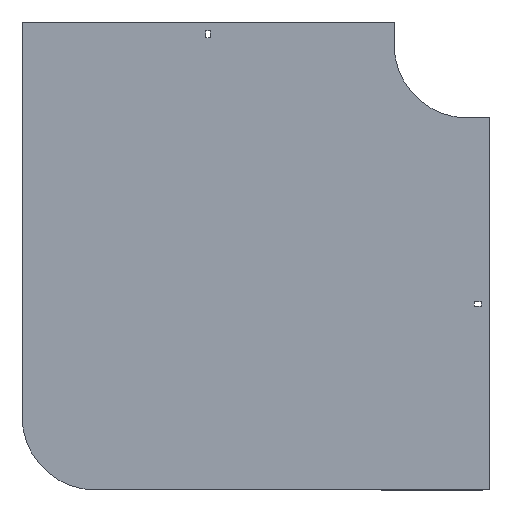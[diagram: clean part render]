
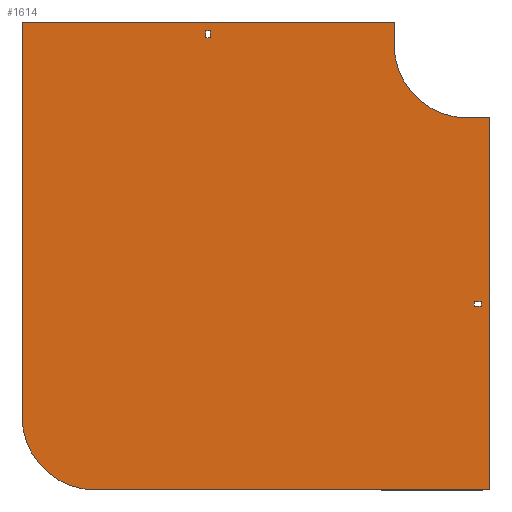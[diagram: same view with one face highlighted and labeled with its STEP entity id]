
A CAD part, front view. The second image highlights one B-rep face of the part: STEP entity #1614.
In plain terms, the highlighted planar face has unit normal (0, -1, 0).
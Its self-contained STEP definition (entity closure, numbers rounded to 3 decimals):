
#3 = ORIENTED_EDGE ( 'NONE', *, *, #15, .F. ) ;
#4 = CARTESIAN_POINT ( 'NONE',  ( 9., 0., -348.75 ) ) ;
#15 = EDGE_CURVE ( 'NONE', #1476, #1208, #1719, .T. ) ;
#24 = LINE ( 'NONE', #303, #1764 ) ;
#27 = CARTESIAN_POINT ( 'NONE',  ( 0., 0., -100. ) ) ;
#67 = VECTOR ( 'NONE', #1816, 1000. ) ;
#76 = VECTOR ( 'NONE', #1525, 1000. ) ;
#82 = CARTESIAN_POINT ( 'NONE',  ( -355.25, 0., 9. ) ) ;
#83 = ORIENTED_EDGE ( 'NONE', *, *, #1489, .F. ) ;
#113 = EDGE_CURVE ( 'NONE', #1019, #391, #1571, .T. ) ;
#116 = CARTESIAN_POINT ( 'NONE',  ( -100., 0., 0. ) ) ;
#124 = CARTESIAN_POINT ( 'NONE',  ( 0., 0., -100. ) ) ;
#133 = EDGE_CURVE ( 'NONE', #462, #802, #1168, .T. ) ;
#170 = EDGE_CURVE ( 'NONE', #905, #1630, #24, .T. ) ;
#198 = ORIENTED_EDGE ( 'NONE', *, *, #226, .F. ) ;
#220 = CARTESIAN_POINT ( 'NONE',  ( 9., 0., -355.25 ) ) ;
#222 = VECTOR ( 'NONE', #814, 1000. ) ;
#226 = EDGE_CURVE ( 'NONE', #391, #879, #746, .T. ) ;
#252 = EDGE_CURVE ( 'NONE', #949, #979, #503, .T. ) ;
#303 = CARTESIAN_POINT ( 'NONE',  ( 30., 0., -100. ) ) ;
#348 = ORIENTED_EDGE ( 'NONE', *, *, #252, .F. ) ;
#350 = CARTESIAN_POINT ( 'NONE',  ( -348.75, 0., 9. ) ) ;
#389 = VERTEX_POINT ( 'NONE', #1930 ) ;
#391 = VERTEX_POINT ( 'NONE', #1642 ) ;
#397 = CARTESIAN_POINT ( 'NONE',  ( 9., 0., -348.75 ) ) ;
#402 = ORIENTED_EDGE ( 'NONE', *, *, #1458, .T. ) ;
#419 = DIRECTION ( 'NONE',  ( 0., -1., 0. ) ) ;
#439 = FACE_BOUND ( 'NONE', #486, .T. ) ;
#462 = VERTEX_POINT ( 'NONE', #1326 ) ;
#486 = EDGE_LOOP ( 'NONE', ( #83, #3, #804, #1386 ) ) ;
#488 = DIRECTION ( 'NONE',  ( 0., 0., -1. ) ) ;
#492 = CARTESIAN_POINT ( 'NONE',  ( 30., 0., -604. ) ) ;
#498 = CARTESIAN_POINT ( 'NONE',  ( 0., 0., 0. ) ) ;
#503 = LINE ( 'NONE', #1259, #76 ) ;
#532 = AXIS2_PLACEMENT_3D ( 'NONE', #498, #1116, #1096 ) ;
#588 = FACE_BOUND ( 'NONE', #1364, .T. ) ;
#593 = CARTESIAN_POINT ( 'NONE',  ( 18., 0., -355.25 ) ) ;
#604 = VECTOR ( 'NONE', #826, 1000. ) ;
#626 = DIRECTION ( 'NONE',  ( 0., 0., -1. ) ) ;
#632 = EDGE_CURVE ( 'NONE', #802, #1476, #1436, .T. ) ;
#655 = CARTESIAN_POINT ( 'NONE',  ( -355.25, 0., 18. ) ) ;
#679 = EDGE_CURVE ( 'NONE', #1235, #1412, #1257, .T. ) ;
#717 = ORIENTED_EDGE ( 'NONE', *, *, #913, .T. ) ;
#722 = VECTOR ( 'NONE', #1604, 1000. ) ;
#729 = CIRCLE ( 'NONE', #1565, 100. ) ;
#746 = LINE ( 'NONE', #1336, #1016 ) ;
#766 = VERTEX_POINT ( 'NONE', #27 ) ;
#802 = VERTEX_POINT ( 'NONE', #4 ) ;
#804 = ORIENTED_EDGE ( 'NONE', *, *, #632, .F. ) ;
#806 = LINE ( 'NONE', #1757, #722 ) ;
#814 = DIRECTION ( 'NONE',  ( 0., 0., 1. ) ) ;
#817 = EDGE_CURVE ( 'NONE', #979, #766, #729, .T. ) ;
#820 = CARTESIAN_POINT ( 'NONE',  ( -604., 0., 30. ) ) ;
#826 = DIRECTION ( 'NONE',  ( 0., 0., -1. ) ) ;
#828 = AXIS2_PLACEMENT_3D ( 'NONE', #858, #1008, #1451 ) ;
#841 = DIRECTION ( 'NONE',  ( 1., 0., 0. ) ) ;
#858 = CARTESIAN_POINT ( 'NONE',  ( -504., 0., -504. ) ) ;
#879 = VERTEX_POINT ( 'NONE', #820 ) ;
#905 = VERTEX_POINT ( 'NONE', #1560 ) ;
#913 = EDGE_CURVE ( 'NONE', #389, #1355, #968, .T. ) ;
#931 = PLANE ( 'NONE',  #532 ) ;
#949 = VERTEX_POINT ( 'NONE', #1518 ) ;
#957 = DIRECTION ( 'NONE',  ( 1., 0., 0. ) ) ;
#968 = LINE ( 'NONE', #350, #1761 ) ;
#978 = VECTOR ( 'NONE', #841, 1000. ) ;
#979 = VERTEX_POINT ( 'NONE', #116 ) ;
#984 = CARTESIAN_POINT ( 'NONE',  ( -355.25, 0., 9. ) ) ;
#990 = CARTESIAN_POINT ( 'NONE',  ( -504., 0., -604. ) ) ;
#996 = CARTESIAN_POINT ( 'NONE',  ( 18., 0., -355.25 ) ) ;
#1006 = ORIENTED_EDGE ( 'NONE', *, *, #113, .F. ) ;
#1008 = DIRECTION ( 'NONE',  ( 0., 1., 0. ) ) ;
#1014 = LINE ( 'NONE', #996, #1338 ) ;
#1016 = VECTOR ( 'NONE', #1799, 1000. ) ;
#1019 = VERTEX_POINT ( 'NONE', #990 ) ;
#1032 = EDGE_CURVE ( 'NONE', #766, #905, #1279, .T. ) ;
#1036 = ORIENTED_EDGE ( 'NONE', *, *, #817, .F. ) ;
#1085 = CARTESIAN_POINT ( 'NONE',  ( 30., 0., -604. ) ) ;
#1096 = DIRECTION ( 'NONE',  ( 0., 0., -1. ) ) ;
#1116 = DIRECTION ( 'NONE',  ( 0., -1., 0. ) ) ;
#1132 = CARTESIAN_POINT ( 'NONE',  ( 9., 0., -355.25 ) ) ;
#1140 = ORIENTED_EDGE ( 'NONE', *, *, #1566, .F. ) ;
#1168 = LINE ( 'NONE', #397, #1284 ) ;
#1179 = FACE_OUTER_BOUND ( 'NONE', #1243, .T. ) ;
#1208 = VERTEX_POINT ( 'NONE', #593 ) ;
#1221 = CARTESIAN_POINT ( 'NONE',  ( -348.75, 0., 9. ) ) ;
#1235 = VERTEX_POINT ( 'NONE', #1346 ) ;
#1243 = EDGE_LOOP ( 'NONE', ( #1140, #198, #1006, #1817, #1884, #1487, #1036, #348 ) ) ;
#1257 = LINE ( 'NONE', #984, #222 ) ;
#1259 = CARTESIAN_POINT ( 'NONE',  ( -100., 0., 30. ) ) ;
#1273 = ORIENTED_EDGE ( 'NONE', *, *, #1625, .T. ) ;
#1279 = LINE ( 'NONE', #124, #978 ) ;
#1284 = VECTOR ( 'NONE', #1771, 1000. ) ;
#1305 = DIRECTION ( 'NONE',  ( 0., 0., -1. ) ) ;
#1317 = VECTOR ( 'NONE', #957, 1000. ) ;
#1321 = ORIENTED_EDGE ( 'NONE', *, *, #679, .T. ) ;
#1326 = CARTESIAN_POINT ( 'NONE',  ( 18., 0., -348.75 ) ) ;
#1336 = CARTESIAN_POINT ( 'NONE',  ( -604., 0., -504. ) ) ;
#1338 = VECTOR ( 'NONE', #1456, 1000. ) ;
#1346 = CARTESIAN_POINT ( 'NONE',  ( -355.25, 0., 9. ) ) ;
#1355 = VERTEX_POINT ( 'NONE', #1221 ) ;
#1364 = EDGE_LOOP ( 'NONE', ( #1321, #402, #717, #1273 ) ) ;
#1386 = ORIENTED_EDGE ( 'NONE', *, *, #133, .F. ) ;
#1412 = VERTEX_POINT ( 'NONE', #655 ) ;
#1436 = LINE ( 'NONE', #220, #604 ) ;
#1437 = VECTOR ( 'NONE', #1535, 1000. ) ;
#1448 = EDGE_CURVE ( 'NONE', #1630, #1019, #1695, .T. ) ;
#1451 = DIRECTION ( 'NONE',  ( 0., 0., 1. ) ) ;
#1456 = DIRECTION ( 'NONE',  ( 0., 0., 1. ) ) ;
#1458 = EDGE_CURVE ( 'NONE', #1412, #389, #806, .T. ) ;
#1476 = VERTEX_POINT ( 'NONE', #1738 ) ;
#1487 = ORIENTED_EDGE ( 'NONE', *, *, #1032, .F. ) ;
#1488 = CARTESIAN_POINT ( 'NONE',  ( -604., 0., 30. ) ) ;
#1489 = EDGE_CURVE ( 'NONE', #1208, #462, #1014, .T. ) ;
#1518 = CARTESIAN_POINT ( 'NONE',  ( -100., 0., 30. ) ) ;
#1525 = DIRECTION ( 'NONE',  ( 0., 0., -1. ) ) ;
#1535 = DIRECTION ( 'NONE',  ( -1., 0., 0. ) ) ;
#1560 = CARTESIAN_POINT ( 'NONE',  ( 30., 0., -100. ) ) ;
#1565 = AXIS2_PLACEMENT_3D ( 'NONE', #1611, #419, #1305 ) ;
#1566 = EDGE_CURVE ( 'NONE', #879, #949, #1631, .T. ) ;
#1571 = CIRCLE ( 'NONE', #828, 100. ) ;
#1604 = DIRECTION ( 'NONE',  ( 1., 0., 0. ) ) ;
#1611 = CARTESIAN_POINT ( 'NONE',  ( 0., 0., 0. ) ) ;
#1614 = ADVANCED_FACE ( 'NONE', ( #588, #1179, #439 ), #931, .T. ) ;
#1625 = EDGE_CURVE ( 'NONE', #1355, #1235, #1877, .T. ) ;
#1630 = VERTEX_POINT ( 'NONE', #1085 ) ;
#1631 = LINE ( 'NONE', #1488, #67 ) ;
#1642 = CARTESIAN_POINT ( 'NONE',  ( -604., 0., -504. ) ) ;
#1695 = LINE ( 'NONE', #492, #1437 ) ;
#1719 = LINE ( 'NONE', #1132, #1317 ) ;
#1738 = CARTESIAN_POINT ( 'NONE',  ( 9., 0., -355.25 ) ) ;
#1757 = CARTESIAN_POINT ( 'NONE',  ( -355.25, 0., 18. ) ) ;
#1761 = VECTOR ( 'NONE', #488, 1000. ) ;
#1764 = VECTOR ( 'NONE', #626, 1000. ) ;
#1771 = DIRECTION ( 'NONE',  ( -1., 0., 0. ) ) ;
#1799 = DIRECTION ( 'NONE',  ( 0., 0., 1. ) ) ;
#1816 = DIRECTION ( 'NONE',  ( 1., 0., 0. ) ) ;
#1817 = ORIENTED_EDGE ( 'NONE', *, *, #1448, .F. ) ;
#1838 = DIRECTION ( 'NONE',  ( -1., 0., 0. ) ) ;
#1856 = VECTOR ( 'NONE', #1838, 1000. ) ;
#1877 = LINE ( 'NONE', #82, #1856 ) ;
#1884 = ORIENTED_EDGE ( 'NONE', *, *, #170, .F. ) ;
#1930 = CARTESIAN_POINT ( 'NONE',  ( -348.75, 0., 18. ) ) ;
